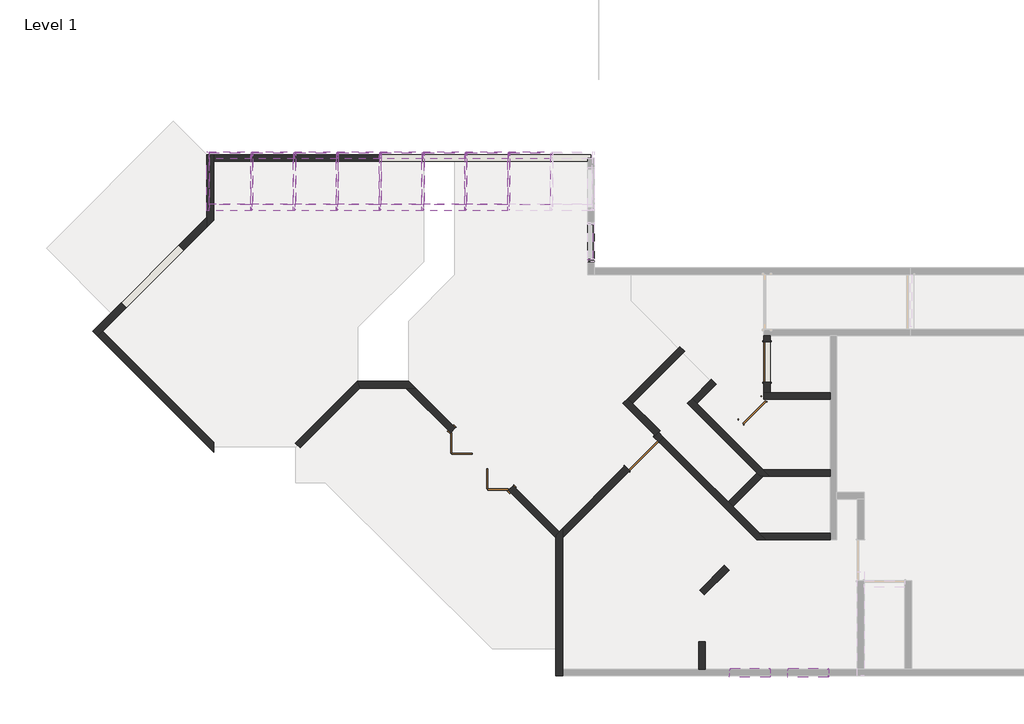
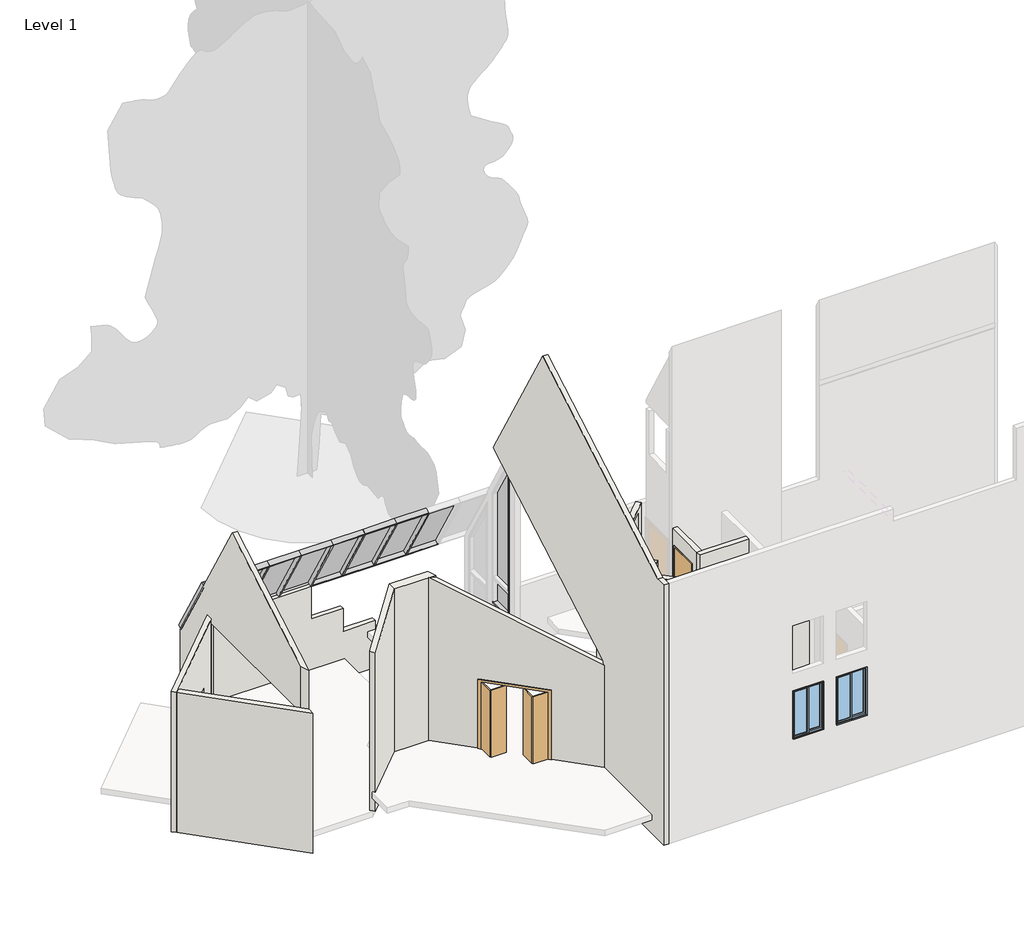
# One storey, part 1 of 2: 26 members, 21 walls, 10 plates, 4 doors, 2 windows.
"""IFC4 building model written with IfcOpenShell, lengths in millimetres."""

from ifc_helpers import new_model, si_unit, frame, origin, place, context, project, spatial, polyline, outline, extrude, faceted_brep, transform, mapped, element, save
from components import m_single_flush_02f8d604, m_single_flush_70x210_7b3a3d44, bifold4_bifold4_2c2d13ea, rectangular_mullion_50_x_150mm_22f0c19d, rectangular_mullion_50_x_150mm_a34e4002, rectangular_mullion_50_x_150mm_0c4aa80c, rectangular_mullion_50_x_150mm_10672d7d, rectangular_mullion_50_x_150mm_12b7c3d9, rectangular_mullion_50_x_150mm_0d3281e4, rectangular_mullion_50_x_150mm_592ffe93, system_panel_glazed_efa95759, system_panel_glazed_20f2d705, system_panel_glazed_4936f0a6, system_panel_glazed_10866b62, m_sliding_with_trim_90x150_4a0fd2b2

model = new_model("IFC4")

# Units and contexts
model_context = context("Model", 3, world=origin())
ifc_project = project(units=[si_unit("LENGTHUNIT", "METRE", prefix="MILLI")], contexts=[model_context])

# Site, building, storey
site = spatial("IfcSite", under=ifc_project)
building = spatial("IfcBuilding", under=site)
storey = spatial("IfcBuildingStorey", under=building, Name="Level 1", Elevation=1200.0)

# Doors
placement = place(None, origin())
m_single_flush_shape = m_single_flush_02f8d604(model_context)
element("IfcDoor", 1, ObjectType="M_Single-Flush : 90x210 室內", at=placement, inside=storey, context=model_context, shape_type="MappedRepresentation", body=[
    mapped(m_single_flush_shape, transform((-3916.8085251, 5219.360491, 1200.0), x_axis=(0.7071440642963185, 0.7070694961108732, 0.0), y_axis=(-0.7070694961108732, 0.7071440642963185, 0.0), z_axis=(0.0, 0.0, 1.0))),
])
element("IfcDoor", 2, ObjectType="M_Single-Flush : 90x210 室內", at=placement, inside=storey, context=model_context, shape_type="MappedRepresentation", body=[
    mapped(m_single_flush_shape, transform((-1152.577255, 7248.4147808, 1800.0), x_axis=(-5.272766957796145e-05, -0.9999999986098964, 0.0), y_axis=(0.9999999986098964, -5.272766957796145e-05, 0.0), z_axis=(0.0, 0.0, 1.0))),
])
m_single_flush_70x210_shape = m_single_flush_70x210_7b3a3d44(model_context)
element("IfcDoor", 3, ObjectType="M_Single-Flush : 70x210", at=placement, inside=storey, context=model_context, shape_type="MappedRepresentation", body=[
    mapped(m_single_flush_70x210_shape, transform((-1473.7040795, 6177.3613616, 1800.0), x_axis=(-0.7071440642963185, -0.7070694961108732, 0.0), y_axis=(0.7070694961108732, -0.7071440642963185, 0.0), z_axis=(0.0, 0.0, 1.0))),
])
bifold4_bifold4_shape = bifold4_bifold4_2c2d13ea(model_context)
element("IfcDoor", 4, ObjectType="bifold4 : bifold4", at=placement, inside=storey, context=model_context, shape_type="MappedRepresentation", body=[
    mapped(bifold4_bifold4_shape, transform((-7445.1063591, 5106.2384711, 1200.0), x_axis=(-0.7070694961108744, 0.7071440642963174, 0.0), y_axis=(-0.7071440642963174, -0.7070694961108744, 0.0), z_axis=(0.0, 0.0, 1.0))),
])

# Members
rectangular_mullion_50_x_150mm_shape = rectangular_mullion_50_x_150mm_22f0c19d(model_context)
element("IfcMember", 5, ObjectType="Rectangular Mullion : 50 x 150mm", at=placement, inside=storey, context=model_context, shape_type="MappedRepresentation", body=[
    mapped(rectangular_mullion_50_x_150mm_shape, transform((-6852.3222132, 10648.7153198, 5205.1596988), x_axis=(-2.636390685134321e-05, -0.4999999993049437, 0.866025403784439), y_axis=(-4.56635013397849e-05, -0.866025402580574, -0.4999999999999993), z_axis=(0.9999999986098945, -5.272770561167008e-05, 6.240637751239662e-11))),
])
element("IfcMember", 6, ObjectType="Rectangular Mullion : 50 x 150mm", at=placement, inside=storey, context=model_context, shape_type="MappedRepresentation", body=[
    mapped(rectangular_mullion_50_x_150mm_shape, transform((-7797.3222115, 10648.7651475, 5205.1596987), x_axis=(-2.636390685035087e-05, -0.4999999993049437, 0.866025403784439), y_axis=(-4.56635013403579e-05, -0.866025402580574, -0.4999999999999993), z_axis=(0.9999999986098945, -5.272770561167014e-05, 6.240523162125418e-11))),
])
element("IfcMember", 7, ObjectType="Rectangular Mullion : 50 x 150mm", at=placement, inside=storey, context=model_context, shape_type="MappedRepresentation", body=[
    mapped(rectangular_mullion_50_x_150mm_shape, transform((-8742.3222099, 10648.8149752, 5205.1596986), x_axis=(-2.636390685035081e-05, -0.4999999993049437, 0.866025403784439), y_axis=(-4.566350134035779e-05, -0.866025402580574, -0.4999999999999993), z_axis=(0.9999999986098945, -5.272770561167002e-05, 6.240523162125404e-11))),
])
element("IfcMember", 8, ObjectType="Rectangular Mullion : 50 x 150mm", at=placement, inside=storey, context=model_context, shape_type="MappedRepresentation", body=[
    mapped(rectangular_mullion_50_x_150mm_shape, transform((-9687.3222082, 10648.8648029, 5205.1596986), x_axis=(-2.6363906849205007e-05, -0.4999999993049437, 0.866025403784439), y_axis=(-4.5663501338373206e-05, -0.866025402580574, -0.4999999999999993), z_axis=(0.9999999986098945, -5.272770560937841e-05, 6.240523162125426e-11))),
])
element("IfcMember", 9, ObjectType="Rectangular Mullion : 50 x 150mm", at=placement, inside=storey, context=model_context, shape_type="MappedRepresentation", body=[
    mapped(rectangular_mullion_50_x_150mm_shape, transform((-10632.3222066, 10648.9146306, 5205.1596985), x_axis=(-2.6363906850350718e-05, -0.4999999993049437, 0.866025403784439), y_axis=(-4.5663501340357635e-05, -0.866025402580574, -0.4999999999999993), z_axis=(0.9999999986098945, -5.2727705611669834e-05, 6.240523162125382e-11))),
])
element("IfcMember", 10, ObjectType="Rectangular Mullion : 50 x 150mm", at=placement, inside=storey, context=model_context, shape_type="MappedRepresentation", body=[
    mapped(rectangular_mullion_50_x_150mm_shape, transform((-11577.3222049, 10648.9644582, 5205.1596985), x_axis=(-2.6363906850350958e-05, -0.4999999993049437, 0.866025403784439), y_axis=(-4.566350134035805e-05, -0.866025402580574, -0.4999999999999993), z_axis=(0.9999999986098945, -5.2727705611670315e-05, 6.24052316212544e-11))),
])
element("IfcMember", 11, ObjectType="Rectangular Mullion : 50 x 150mm", at=placement, inside=storey, context=model_context, shape_type="MappedRepresentation", body=[
    mapped(rectangular_mullion_50_x_150mm_shape, transform((-8742.2602549, 11823.8149734, 3170.0), x_axis=(2.6363834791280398e-05, 0.4999999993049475, -0.866025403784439), y_axis=(-4.566350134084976e-05, -0.866025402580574, -0.4999999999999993), z_axis=(-0.9999999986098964, 5.272766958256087e-05, 0.0))),
])
element("IfcMember", 12, ObjectType="Rectangular Mullion : 50 x 150mm", at=placement, inside=storey, context=model_context, shape_type="MappedRepresentation", body=[
    mapped(rectangular_mullion_50_x_150mm_shape, transform((-7797.2602565, 11823.7651458, 3170.0), x_axis=(2.6363834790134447e-05, 0.4999999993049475, -0.866025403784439), y_axis=(-4.566350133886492e-05, -0.866025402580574, -0.4999999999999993), z_axis=(-0.9999999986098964, 5.272766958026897e-05, 0.0))),
])
element("IfcMember", 13, ObjectType="Rectangular Mullion : 50 x 150mm", at=placement, inside=storey, context=model_context, shape_type="MappedRepresentation", body=[
    mapped(rectangular_mullion_50_x_150mm_shape, transform((-6852.2602581, 11823.7153181, 3170.0), x_axis=(2.6363834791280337e-05, 0.4999999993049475, -0.866025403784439), y_axis=(-4.566350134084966e-05, -0.866025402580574, -0.4999999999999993), z_axis=(-0.9999999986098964, 5.272766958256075e-05, 0.0))),
])
element("IfcMember", 14, ObjectType="Rectangular Mullion : 50 x 150mm", at=placement, inside=storey, context=model_context, shape_type="MappedRepresentation", body=[
    mapped(rectangular_mullion_50_x_150mm_shape, transform((-12522.2602483, 11824.014284, 3170.0), x_axis=(2.6363834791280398e-05, 0.4999999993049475, -0.866025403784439), y_axis=(-4.566350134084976e-05, -0.866025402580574, -0.4999999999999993), z_axis=(-0.9999999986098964, 5.272766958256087e-05, 0.0))),
])
element("IfcMember", 15, ObjectType="Rectangular Mullion : 50 x 150mm", at=placement, inside=storey, context=model_context, shape_type="MappedRepresentation", body=[
    mapped(rectangular_mullion_50_x_150mm_shape, transform((-11577.2602499, 11823.9644564, 3170.0), x_axis=(2.6363834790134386e-05, 0.4999999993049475, -0.866025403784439), y_axis=(-4.566350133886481e-05, -0.866025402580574, -0.4999999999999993), z_axis=(-0.9999999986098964, 5.272766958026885e-05, 0.0))),
])
element("IfcMember", 16, ObjectType="Rectangular Mullion : 50 x 150mm", at=placement, inside=storey, context=model_context, shape_type="MappedRepresentation", body=[
    mapped(rectangular_mullion_50_x_150mm_shape, transform((-10632.2602516, 11823.9146287, 3170.0), x_axis=(2.6363834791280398e-05, 0.4999999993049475, -0.866025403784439), y_axis=(-4.566350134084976e-05, -0.866025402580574, -0.4999999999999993), z_axis=(-0.9999999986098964, 5.272766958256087e-05, 0.0))),
])
element("IfcMember", 17, ObjectType="Rectangular Mullion : 50 x 150mm", at=placement, inside=storey, context=model_context, shape_type="MappedRepresentation", body=[
    mapped(rectangular_mullion_50_x_150mm_shape, transform((-9687.2602532, 11823.8648011, 3170.0), x_axis=(2.6363834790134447e-05, 0.4999999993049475, -0.866025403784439), y_axis=(-4.566350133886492e-05, -0.866025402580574, -0.4999999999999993), z_axis=(-0.9999999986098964, 5.272766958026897e-05, 0.0))),
])
rectangular_mullion_50_x_150mm_2_shape = rectangular_mullion_50_x_150mm_a34e4002(model_context)
element("IfcMember", 18, ObjectType="Rectangular Mullion : 50 x 150mm", at=placement, inside=storey, context=model_context, shape_type="MappedRepresentation", body=[
    mapped(rectangular_mullion_50_x_150mm_2_shape, transform((-12522.3222033, 10649.0142859, 5205.1596984), x_axis=(-2.636390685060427e-05, -0.4999999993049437, 0.866025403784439), y_axis=(-4.566350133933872e-05, -0.866025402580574, -0.4999999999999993), z_axis=(0.9999999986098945, -5.2727705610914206e-05, 6.240596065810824e-11))),
])
element("IfcMember", 19, ObjectType="Rectangular Mullion : 50 x 150mm", at=placement, inside=storey, context=model_context, shape_type="MappedRepresentation", body=[
    mapped(rectangular_mullion_50_x_150mm_2_shape, transform((-13462.2602493, 11824.063848, 3170.0), x_axis=(2.6363834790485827e-05, 0.49999999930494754, -0.8660254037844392), y_axis=(-4.566350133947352e-05, -0.866025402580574, -0.4999999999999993), z_axis=(-0.9999999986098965, 5.272766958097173e-05, 0.0))),
])
rectangular_mullion_50_x_150mm_3_shape = rectangular_mullion_50_x_150mm_0c4aa80c(model_context)
element("IfcMember", 20, ObjectType="Rectangular Mullion : 50 x 150mm", at=placement, inside=storey, context=model_context, shape_type="MappedRepresentation", body=[
    mapped(rectangular_mullion_50_x_150mm_3_shape, transform((-6852.320895, 10673.7153198, 5161.8584286), x_axis=(-0.9999999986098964, 5.2727669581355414e-05, 0.0), y_axis=(-4.566350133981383e-05, -0.8660254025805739, -0.49999999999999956), z_axis=(-2.6363834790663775e-05, -0.49999999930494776, 0.8660254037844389))),
])
element("IfcMember", 21, ObjectType="Rectangular Mullion : 50 x 150mm", at=placement, inside=storey, context=model_context, shape_type="MappedRepresentation", body=[
    mapped(rectangular_mullion_50_x_150mm_3_shape, transform((-7797.3208933, 10673.7651475, 5161.8584285), x_axis=(-0.9999999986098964, 5.272766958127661e-05, 0.0), y_axis=(-4.566350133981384e-05, -0.8660254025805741, -0.4999999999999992), z_axis=(-2.6363834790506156e-05, -0.49999999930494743, 0.8660254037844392))),
])
element("IfcMember", 22, ObjectType="Rectangular Mullion : 50 x 150mm", at=placement, inside=storey, context=model_context, shape_type="MappedRepresentation", body=[
    mapped(rectangular_mullion_50_x_150mm_3_shape, transform((-8742.3208917, 10673.8149752, 5161.8584285), x_axis=(-0.9999999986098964, 5.2727669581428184e-05, 0.0), y_axis=(-4.566350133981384e-05, -0.866025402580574, -0.4999999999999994), z_axis=(-2.6363834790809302e-05, -0.49999999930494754, 0.8660254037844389))),
])
element("IfcMember", 23, ObjectType="Rectangular Mullion : 50 x 150mm", at=placement, inside=storey, context=model_context, shape_type="MappedRepresentation", body=[
    mapped(rectangular_mullion_50_x_150mm_3_shape, transform((-9687.32089, 10673.8648028, 5161.8584284), x_axis=(-0.9999999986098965, 5.272766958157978e-05, 0.0), y_axis=(-4.5663501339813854e-05, -0.8660254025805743, -0.49999999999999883), z_axis=(-2.6363834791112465e-05, -0.4999999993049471, 0.8660254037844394))),
])
element("IfcMember", 24, ObjectType="Rectangular Mullion : 50 x 150mm", at=placement, inside=storey, context=model_context, shape_type="MappedRepresentation", body=[
    mapped(rectangular_mullion_50_x_150mm_3_shape, transform((-10632.3208884, 10673.9146305, 5161.8584283), x_axis=(-0.9999999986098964, 5.272766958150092e-05, 0.0), y_axis=(-4.566350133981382e-05, -0.8660254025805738, -0.4999999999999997), z_axis=(-2.6363834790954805e-05, -0.49999999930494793, 0.8660254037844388))),
])
element("IfcMember", 25, ObjectType="Rectangular Mullion : 50 x 150mm", at=placement, inside=storey, context=model_context, shape_type="MappedRepresentation", body=[
    mapped(rectangular_mullion_50_x_150mm_3_shape, transform((-11577.3208868, 10673.9644582, 5161.8584283), x_axis=(-0.9999999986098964, 5.272766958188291e-05, 0.0), y_axis=(-4.566350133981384e-05, -0.8660254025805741, -0.4999999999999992), z_axis=(-2.636383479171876e-05, -0.4999999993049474, 0.866025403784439))),
])
element("IfcMember", 26, ObjectType="Rectangular Mullion : 50 x 150mm", at=placement, inside=storey, context=model_context, shape_type="MappedRepresentation", body=[
    mapped(rectangular_mullion_50_x_150mm_3_shape, transform((-12522.3208851, 10674.0142859, 5161.8584282), x_axis=(-0.9999999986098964, 5.272766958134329e-05, 0.0), y_axis=(-4.566350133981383e-05, -0.866025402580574, -0.49999999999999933), z_axis=(-2.6363834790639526e-05, -0.49999999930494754, 0.866025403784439))),
])
rectangular_mullion_50_x_150mm_4_shape = rectangular_mullion_50_x_150mm_10672d7d(model_context)
element("IfcMember", 27, ObjectType="Rectangular Mullion : 50 x 150mm", at=placement, inside=storey, context=model_context, shape_type="MappedRepresentation", body=[
    mapped(rectangular_mullion_50_x_150mm_4_shape, transform((-13512.3222042, 10649.0664863, 5205.1596983), x_axis=(-0.9999999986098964, 5.272766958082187e-05, 0.0), y_axis=(-4.5663501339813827e-05, -0.8660254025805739, -0.4999999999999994), z_axis=(-2.636383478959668e-05, -0.4999999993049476, 0.8660254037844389))),
])
rectangular_mullion_50_x_150mm_5_shape = rectangular_mullion_50_x_150mm_12b7c3d9(model_context)
element("IfcMember", 28, ObjectType="Rectangular Mullion : 50 x 150mm", at=placement, inside=storey, context=model_context, shape_type="MappedRepresentation", body=[
    mapped(rectangular_mullion_50_x_150mm_5_shape, transform((-5037.3846077, 9465.3384866, 6864.6558932), x_axis=(0.0, -1.0, 0.0), y_axis=(1.0, 0.0, 0.0), z_axis=(0.0, 0.0, 1.0))),
])
rectangular_mullion_50_x_150mm_6_shape = rectangular_mullion_50_x_150mm_0d3281e4(model_context)
element("IfcMember", 29, ObjectType="Rectangular Mullion : 50 x 150mm", at=placement, inside=storey, context=model_context, shape_type="MappedRepresentation", body=[
    mapped(rectangular_mullion_50_x_150mm_6_shape, transform((-5037.3846077, 9465.3384866, 2700.0), x_axis=(0.0, -1.0, 0.0), y_axis=(1.0, 0.0, 0.0), z_axis=(0.0, 0.0, 1.0))),
])
rectangular_mullion_50_x_150mm_7_shape = rectangular_mullion_50_x_150mm_592ffe93(model_context)
element("IfcMember", 30, ObjectType="Rectangular Mullion : 50 x 150mm", at=placement, inside=storey, context=model_context, shape_type="MappedRepresentation", body=[
    mapped(rectangular_mullion_50_x_150mm_7_shape, transform((-5037.3846077, 9465.3384866, 1900.0), x_axis=(0.0, 0.0, -1.0), y_axis=(1.0, 0.0, 0.0), z_axis=(0.0, -1.0, 0.0))),
])

# Plates
system_panel_glazed_shape = system_panel_glazed_efa95759(model_context)
element("IfcPlate", 31, ObjectType="System Panel : Glazed", at=placement, inside=storey, context=model_context, shape_type="MappedRepresentation", body=[
    mapped(system_panel_glazed_shape, transform((-6379.7615772, 11798.6904043, 3213.3012702), x_axis=(-0.9999999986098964, 5.2727669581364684e-05, 0.0), y_axis=(-4.566350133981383e-05, -0.866025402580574, -0.4999999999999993), z_axis=(-2.6363834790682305e-05, -0.4999999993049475, 0.866025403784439))),
])
element("IfcPlate", 32, ObjectType="System Panel : Glazed", at=placement, inside=storey, context=model_context, shape_type="MappedRepresentation", body=[
    mapped(system_panel_glazed_shape, transform((-7324.7615755, 11798.740232, 3213.3012702), x_axis=(-0.9999999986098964, 5.2727669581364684e-05, 0.0), y_axis=(-4.566350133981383e-05, -0.866025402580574, -0.4999999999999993), z_axis=(-2.6363834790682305e-05, -0.4999999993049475, 0.866025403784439))),
])
element("IfcPlate", 33, ObjectType="System Panel : Glazed", at=placement, inside=storey, context=model_context, shape_type="MappedRepresentation", body=[
    mapped(system_panel_glazed_shape, transform((-8269.7615739, 11798.7900596, 3213.3012702), x_axis=(-0.9999999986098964, 5.2727669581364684e-05, 0.0), y_axis=(-4.566350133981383e-05, -0.866025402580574, -0.4999999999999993), z_axis=(-2.6363834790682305e-05, -0.4999999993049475, 0.866025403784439))),
])
element("IfcPlate", 34, ObjectType="System Panel : Glazed", at=placement, inside=storey, context=model_context, shape_type="MappedRepresentation", body=[
    mapped(system_panel_glazed_shape, transform((-9214.7615722, 11798.8398873, 3213.3012702), x_axis=(-0.9999999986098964, 5.2727669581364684e-05, 0.0), y_axis=(-4.566350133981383e-05, -0.866025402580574, -0.4999999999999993), z_axis=(-2.6363834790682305e-05, -0.4999999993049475, 0.866025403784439))),
])
element("IfcPlate", 35, ObjectType="System Panel : Glazed", at=placement, inside=storey, context=model_context, shape_type="MappedRepresentation", body=[
    mapped(system_panel_glazed_shape, transform((-10159.7615706, 11798.8897149, 3213.3012702), x_axis=(-0.9999999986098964, 5.2727669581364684e-05, 0.0), y_axis=(-4.566350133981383e-05, -0.866025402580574, -0.4999999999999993), z_axis=(-2.6363834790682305e-05, -0.4999999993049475, 0.866025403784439))),
])
element("IfcPlate", 36, ObjectType="System Panel : Glazed", at=placement, inside=storey, context=model_context, shape_type="MappedRepresentation", body=[
    mapped(system_panel_glazed_shape, transform((-11104.7615689, 11798.9395426, 3213.3012702), x_axis=(-0.9999999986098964, 5.2727669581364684e-05, 0.0), y_axis=(-4.566350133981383e-05, -0.866025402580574, -0.4999999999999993), z_axis=(-2.6363834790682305e-05, -0.4999999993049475, 0.866025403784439))),
])
element("IfcPlate", 37, ObjectType="System Panel : Glazed", at=placement, inside=storey, context=model_context, shape_type="MappedRepresentation", body=[
    mapped(system_panel_glazed_shape, transform((-12049.7615673, 11798.9893702, 3213.3012702), x_axis=(-0.9999999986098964, 5.2727669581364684e-05, 0.0), y_axis=(-4.566350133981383e-05, -0.866025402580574, -0.4999999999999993), z_axis=(-2.6363834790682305e-05, -0.4999999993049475, 0.866025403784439))),
])
system_panel_glazed_2_shape = system_panel_glazed_20f2d705(model_context)
element("IfcPlate", 38, ObjectType="System Panel : Glazed", at=placement, inside=storey, context=model_context, shape_type="MappedRepresentation", body=[
    mapped(system_panel_glazed_2_shape, transform((-13004.761567, 11799.0397251, 3213.3012702), x_axis=(-0.9999999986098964, 5.2727669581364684e-05, 0.0), y_axis=(-4.566350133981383e-05, -0.866025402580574, -0.4999999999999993), z_axis=(-2.6363834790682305e-05, -0.4999999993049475, 0.866025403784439))),
])
system_panel_glazed_3_shape = system_panel_glazed_4936f0a6(model_context)
element("IfcPlate", 39, ObjectType="System Panel : Glazed", at=placement, inside=storey, context=model_context, shape_type="MappedRepresentation", body=[
    mapped(system_panel_glazed_3_shape, transform((-5037.3846077, 9900.35657, 1950.0), x_axis=(0.0, 1.0, 0.0), y_axis=(-1.0, 0.0, 0.0), z_axis=(0.0, 0.0, 1.0))),
])
system_panel_glazed_4_shape = system_panel_glazed_10866b62(model_context)
element("IfcPlate", 40, ObjectType="System Panel : Glazed", at=placement, inside=storey, context=model_context, shape_type="MappedRepresentation", body=[
    mapped(system_panel_glazed_4_shape, transform((-5037.3846077, 9900.35657, 2745.0), x_axis=(0.0, 1.0, 0.0), y_axis=(-1.0, 0.0, 0.0), z_axis=(0.0, 0.0, 1.0))),
])

# Walls
element("IfcWall", 41, ObjectType="15cm室內", at=placement, inside=storey, context=model_context, shape_type="Brep", body=[
    faceted_brep([(-3545.5634839, 5484.5059594, 3300.0), (-3545.5634839, 5484.5059594, 1200.0), (-3439.4918743, 5590.5663838, 1200.0), (-3439.4918743, 5590.5663838, 4400.0), (-3439.4918743, 5590.5663838, 7330.0), (-3545.5634839, 5484.5059594, 7330.0), (-5662.7061288, 3367.5865668, 7330.0), (-5662.7061288, 3367.5865668, 1200.0), (-4181.9931418, 4848.1434129, 1200.0), (-4181.9931418, 4848.1434129, 3300.0), (-3642.6598041, 5387.419878, 5814.1569786), (-4333.4963737, 4696.656157, 5814.1569786), (-4333.4963737, 4696.656157, 7177.9842073), (-3642.6598041, 5387.419878, 7177.9842073), (-3545.5522987, 5696.6379934, 1200.0), (-3619.8024255, 5622.3956964, 1200.0), (-3651.6239084, 5590.577569, 1200.0), (-3651.6239084, 5590.577569, 3300.0), (-4288.0535662, 4954.2150225, 3300.0), (-4288.0535662, 4954.2150225, 1200.0), (-5662.6949436, 3579.7186008, 1200.0), (-5662.6949436, 3579.7186008, 4594.0278055), (-5662.6949436, 3579.7186008, 7330.0), (-3545.5522987, 5696.6379934, 7330.0), (-3748.7202285, 5493.4914876, 5814.1569786), (-3748.7202285, 5493.4914876, 7177.9842073), (-4439.5567981, 4802.7277666, 7177.9842073), (-4439.5567981, 4802.7277666, 5814.1569786)], [[[0, 1, 2, 3, 4, 5, 6, 7, 8, 9], [10, 11, 12, 13]], [[14, 15, 16, 17, 18, 19, 20, 21, 22, 23], [24, 25, 26, 27]], [[2, 1, 16, 15, 14]], [[8, 7, 20, 19]], [[11, 10, 24, 27]], [[12, 11, 27, 26]], [[13, 12, 26, 25]], [[10, 13, 25, 24]], [[2, 14, 23, 4, 3]], [[6, 22, 21, 20, 7]], [[6, 5, 4, 23, 22]], [[17, 16, 1, 0]], [[18, 17, 0, 9]], [[19, 18, 9, 8]]]),
])
element("IfcWall", 42, ObjectType="15cm室內", at=placement, inside=storey, context=model_context, shape_type="Brep", body=[
    faceted_brep([(237.4629114, 6573.3414862, 1200.0), (-1077.6128463, 6573.4108271, 1200.0), (-1227.6128461, 6573.4187363, 1200.0), (-1227.6128461, 6573.4187363, 4400.0), (-1077.6128463, 6573.4108271, 4400.0), (237.4629114, 6573.3414862, 4400.0), (237.4550023, 6423.3414864, 1200.0), (237.4550023, 6423.3414864, 4400.0), (-1121.5547382, 6423.4131439, 4400.0), (-1227.6207552, 6423.4187365, 4400.0), (-1227.6207552, 6423.4187365, 1200.0), (-1121.5547382, 6423.4131439, 1200.0), (-1227.6151626, 6529.4847535, 1200.0), (-1227.6151626, 6529.4847535, 4400.0)], [[[0, 1, 2, 3, 4, 5]], [[6, 7, 8, 9, 10, 11]], [[2, 1, 0, 6, 11, 10, 12]], [[5, 4, 3, 13, 9, 8, 7]], [[3, 2, 12, 10, 9, 13]], [[0, 5, 7, 6]]]),
])
element("IfcWall", 43, ObjectType="15cm室內", at=placement, inside=storey, context=model_context, shape_type="SweptSolid", body=[
    extrude(outline(polyline([(-1237.5744226, 4873.4192592), (237.3732744, 4873.3414886), (237.3653652, 4723.3414888), (-1087.5823319, 4723.4113502), (-1237.5744226, 4873.4192592)])), frame((0.0, 0.0, 1200.0), z_axis=(0.0, 0.0, 1.0), x_axis=(1.0, 0.0, 0.0)), (0.0, 0.0, 1.0), 3200.0),
])
element("IfcWall", 44, ObjectType="15cm室內", at=placement, inside=storey, context=model_context, shape_type="Brep", body=[
    faceted_brep([(-1172.580391, 3323.41583, 1200.0), (-1322.5724817, 3473.423739, 1200.0), (-1905.0796447, 4055.9923338, 1200.0), (-2011.1400692, 4162.0639434, 1200.0), (-3439.4918743, 5590.5663838, 1200.0), (-3439.4918743, 5590.5663838, 4400.0), (-2011.1400692, 4162.0639434, 4400.0), (-1905.0796447, 4055.9923338, 4400.0), (-1322.5724817, 3473.423739, 4400.0), (-1172.580391, 3323.41583, 4400.0), (-1384.7124251, 3323.4270152, 1200.0), (-1384.7124251, 3323.4270152, 4400.0), (-3545.5634839, 5484.5059594, 4400.0), (-3545.5634839, 5484.5059594, 3300.0), (-3545.5634839, 5484.5059594, 1200.0)], [[[0, 1, 2, 3, 4, 5, 6, 7, 8, 9]], [[10, 11, 12, 13, 14]], [[4, 3, 2, 1, 0, 10, 14]], [[9, 8, 7, 6, 5, 12, 11]], [[0, 9, 11, 10]], [[4, 14, 13, 12, 5]]]),
])
element("IfcWall", 45, ObjectType="15cm室內", at=placement, inside=storey, context=model_context, shape_type="Brep", body=[
    faceted_brep([(-1087.5823319, 4723.4113502, 1200.0), (-1237.5744226, 4873.4192592, 1200.0), (-1954.5676359, 5590.4880872, 1200.0), (-2060.6280603, 5696.5596969, 1200.0), (-2696.9906068, 6332.9893547, 1200.0), (-2803.0510312, 6439.0609644, 1200.0), (-2803.0510312, 6439.0609644, 4400.0), (-2696.9906068, 6332.9893547, 4400.0), (-2060.6280603, 5696.5596969, 4400.0), (-1954.5676359, 5590.4880872, 4400.0), (-1237.5744226, 4873.4192592, 4400.0), (-1087.5823319, 4723.4113502, 4400.0), (-1299.714366, 4723.4225354, 1200.0), (-1299.714366, 4723.4225354, 4400.0), (-1374.7104113, 4798.4264899, 4400.0), (-2909.1226408, 6333.0005399, 4400.0), (-2909.1226408, 6333.0005399, 1200.0), (-1374.7104113, 4798.4264899, 1200.0), (-1237.5823317, 4723.4192594, 1200.0), (-1237.5823317, 4723.4192594, 4400.0)], [[[0, 1, 2, 3, 4, 5, 6, 7, 8, 9, 10, 11]], [[12, 13, 14, 15, 16, 17]], [[5, 4, 3, 2, 1, 0, 18, 12, 17, 16]], [[11, 10, 9, 8, 7, 6, 15, 14, 13, 19]], [[6, 5, 16, 15]], [[0, 11, 19, 13, 12, 18]]]),
])
element("IfcWall", 46, ObjectType="15cm室內", at=placement, inside=storey, context=model_context, shape_type="Brep", body=[
    faceted_brep([(-1077.6128463, 6573.4108271, 1200.0), (-1077.5469453, 7823.2480246, 1200.0), (-1077.5469453, 7823.2480246, 4400.0), (-1077.6128463, 6573.4108271, 4400.0), (-1077.5535276, 7698.4108256, 1800.0), (-1077.6009825, 6798.4108268, 1800.0), (-1077.6009825, 6798.4108268, 3900.0), (-1077.5535276, 7698.4108256, 3900.0), (-1227.6128461, 6573.4187363, 1200.0), (-1227.6128461, 6573.4187363, 4400.0), (-1227.5469455, 7823.2480246, 4400.0), (-1227.5469455, 7823.2480246, 1200.0), (-1227.5535274, 7698.4187347, 1800.0), (-1227.5535274, 7698.4187347, 3900.0), (-1227.6009823, 6798.418736, 3900.0), (-1227.6009823, 6798.418736, 1800.0)], [[[0, 1, 2, 3], [4, 5, 6, 7]], [[8, 9, 10, 11], [12, 13, 14, 15]], [[1, 0, 8, 11]], [[3, 2, 10, 9]], [[0, 3, 9, 8]], [[2, 1, 11, 10]], [[5, 4, 12, 15]], [[6, 5, 15, 14]], [[7, 6, 14, 13]], [[4, 7, 13, 12]]]),
])
element("IfcWall", 47, ObjectType="15cm室內", at=placement, inside=storey, context=model_context, shape_type="SweptSolid", body=[
    extrude(outline(polyline([(-1322.5724817, 3473.423739), (237.2994556, 3473.3414905), (237.2915465, 3323.3414908), (-1172.580391, 3323.41583), (-1322.5724817, 3473.423739)])), frame((0.0, 0.0, 1200.0), z_axis=(0.0, 0.0, 1.0), x_axis=(1.0, 0.0, 0.0)), (0.0, 0.0, 1.0), 3200.0),
])
element("IfcWall", 48, ObjectType="15cm室內", at=placement, inside=storey, context=model_context, shape_type="SweptSolid", body=[
    extrude(outline(polyline([(-2272.7041682, 6757.2310524), (-2696.9906068, 6332.9893547), (-2803.0510312, 6439.0609644), (-2378.7645926, 6863.302662), (-2272.7041682, 6757.2310524)])), frame((0.0, 0.0, 1200.0), z_axis=(0.0, 0.0, 1.0), x_axis=(1.0, 0.0, 0.0)), (0.0, 0.0, 1.0), 3200.0),
])
element("IfcWall", 49, ObjectType="15cm室內", at=placement, inside=storey, context=model_context, shape_type="SweptSolid", body=[
    extrude(outline(polyline([(-2512.827087, 1073.486495), (-2512.8587236, 473.4864958), (-2662.8587233, 473.494405), (-2662.8270867, 1073.4944041), (-2512.827087, 1073.486495)])), frame((0.0, 0.0, 1200.0), z_axis=(0.0, 0.0, 1.0), x_axis=(1.0, 0.0, 0.0)), (0.0, 0.0, 1.0), 3200.0),
])
element("IfcWall", 50, ObjectType="15cm室內", at=placement, inside=storey, context=model_context, shape_type="SweptSolid", body=[
    extrude(outline(polyline([(-2640.7997764, 2217.4642095), (-2096.1381283, 2762.0684232), (-1990.0777039, 2655.9968136), (-2534.739352, 2111.3925999), (-2640.7997764, 2217.4642095)])), frame((0.0, 0.0, 1200.0), z_axis=(0.0, 0.0, 1.0), x_axis=(1.0, 0.0, 0.0)), (0.0, 0.0, 1.0), 3200.0),
])
element("IfcWall", 51, ObjectType="15cm室內", at=placement, inside=storey, context=model_context, shape_type="SweptSolid", body=[
    extrude(outline(polyline([(-2011.1400692, 4162.0639434), (-1374.7104113, 4798.4264899), (-1299.714366, 4723.4225354), (-1237.5823317, 4723.4192594), (-1905.0796447, 4055.9923338), (-2011.1400692, 4162.0639434)])), frame((0.0, 0.0, 1200.0), z_axis=(0.0, 0.0, 1.0), x_axis=(1.0, 0.0, 0.0)), (0.0, 0.0, 1.0), 3200.0),
])
element("IfcWall", 52, ObjectType="15cm室內", at=placement, inside=storey, context=model_context, shape_type="SweptSolid", body=[
    extrude(outline(polyline([(0.0, 0.0), (0.0, -1384.0), (-770.0, -2000.0), (-1625.0, -2000.0), (-1625.0, 0.0), (0.0, 0.0)])), frame((-2969.1661305, 7482.0522269, 1200.0), z_axis=(-0.7070694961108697, 0.7071440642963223, 0.0), x_axis=(0.7071440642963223, 0.7070694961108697, 0.0)), (0.0, 0.0, 1.0), 150.0),
])
element("IfcWall", 53, ObjectType="15cm室內", at=placement, inside=storey, context=model_context, shape_type="Brep", body=[
    faceted_brep([(-4330.407269, 6333.075481, 1200.0), (-3619.8024255, 5622.3956964, 1200.0), (-3619.8024255, 5622.3956964, 3200.0), (-4330.407269, 6333.075481, 3200.0), (-4224.3356594, 6439.1359054, 1200.0), (-4224.3356594, 6439.1359054, 3200.0), (-4118.275235, 6333.0642957, 3200.0), (-3513.7308158, 5728.4561208, 3200.0), (-3513.7308158, 5728.4561208, 1200.0), (-4118.275235, 6333.0642957, 1200.0), (-3545.5522987, 5696.6379934, 1200.0)], [[[0, 1, 2, 3]], [[4, 5, 6, 7, 8, 9]], [[1, 0, 4, 9, 8, 10]], [[3, 2, 7, 6, 5]], [[0, 3, 5, 4]], [[2, 1, 10, 8, 7]]]),
])
element("IfcWall", 54, ObjectType="15cm", at=placement, inside=storey, context=model_context, shape_type="Brep", body=[
    faceted_brep([(-13512.2602492, 11824.0664844, 600.0), (-13512.3445209, 10225.8215181, 600.0), (-13512.3445209, 10225.8215181, 4250.0), (-13512.5872023, 5623.2782607, 4250.0), (-13512.5872023, 5623.2782607, 5702.0852362), (-13512.4011999, 9150.8834714, 7738.749057), (-13512.2602492, 11824.0664844, 3108.660254), (-13362.2602494, 11824.0585752, 600.0), (-13362.2602494, 11824.0585752, 3108.660254), (-13362.4012001, 9150.8755622, 7738.749057), (-13362.5951117, 5473.2703518, 5615.4826958), (-13362.5951117, 5473.2703518, 4400.0), (-13362.5951117, 5473.2703518, 4250.0), (-13362.336612, 10375.8136088, 4250.0), (-13362.336612, 10375.8136088, 600.0)], [[[0, 1, 2, 3, 4, 5, 6]], [[7, 8, 9, 10, 11, 12, 13, 14]], [[1, 0, 7, 14]], [[3, 2, 13, 12]], [[5, 4, 10, 9]], [[6, 5, 9, 8]], [[2, 1, 14, 13]], [[0, 6, 8, 7]], [[4, 3, 12, 11, 10]]]),
])
element("IfcWall", 55, ObjectType="15cm", at=placement, inside=storey, context=model_context, shape_type="Brep", body=[
    faceted_brep([(-5662.8666283, 323.6525882, 600.0), (-5662.8587192, 473.652588, 600.0), (-5662.6949436, 3579.7186008, 600.0), (-5662.6949436, 3579.7186008, 1200.0), (-5662.6949436, 3579.7186008, 4594.0278055), (-5662.4450754, 8318.5614432, 7330.0), (-5662.6949436, 3579.7186008, 7330.0), (-5662.7061288, 3367.5865668, 7330.0), (-5662.8600374, 448.652588, 7330.0), (-5662.8600374, 448.652588, 7500.0), (-5662.4295498, 8613.0100801, 7500.0), (-5662.4048717, 9081.0400466, 7770.2172275), (-5662.5392562, 6532.3867022, 12184.614317), (-5662.85081, 623.6525878, 8773.2050808), (-5662.8587192, 473.652588, 8773.2050808), (-5662.8666283, 323.6525882, 8773.2050808), (-5812.8666281, 323.6604973, 600.0), (-5812.8666281, 323.6604973, 8773.2050808), (-5812.8508098, 623.6604969, 8773.2050808), (-5812.539256, 6532.3946113, 12184.614317), (-5812.4048715, 9081.0479557, 7770.2172275), (-5812.7028525, 3429.7265102, 4507.4252651), (-5812.7028525, 3429.7265102, 4417.5181885), (-5812.7028525, 3429.7265102, 1200.0), (-5812.7028525, 3429.7265102, 600.0), (-5687.4295498, 8613.0113983, 7500.0), (-5687.4450754, 8318.5627614, 7330.0), (-5687.8600373, 448.6539062, 7330.0), (-5687.8600373, 448.6539062, 7500.0)], [[[0, 1, 2, 3, 4, 5, 6, 7, 8, 9, 10, 11, 12, 13, 14, 15]], [[16, 17, 18, 19, 20, 21, 22, 23, 24]], [[2, 1, 0, 16, 24]], [[21, 20, 11, 10, 25, 26, 5, 4]], [[12, 11, 20, 19]], [[13, 12, 19, 18]], [[15, 14, 13, 18, 17]], [[0, 15, 17, 16]], [[4, 3, 2, 24, 23, 22, 21]], [[26, 27, 8, 7, 6, 5]], [[9, 28, 25, 10]], [[27, 28, 9, 8]], [[28, 27, 26, 25]]]),
])
element("IfcWall", 56, ObjectType="15cm", at=placement, inside=storey, context=model_context, shape_type="Brep", body=[
    faceted_brep([(-8028.4331008, 5795.6983412, 3300.0), (-8028.4331008, 5795.6983412, 1200.0), (-8906.4657859, 6673.8236244, 1200.0), (-8906.4657859, 6673.8236244, 6247.1030765), (-5737.698898, 3504.7225555, 4417.5181885), (-5737.698898, 3504.7225555, 1200.0), (-6755.7080078, 4522.8390255, 1200.0), (-6755.7080078, 4522.8390255, 3300.0), (-9118.59782, 6673.8348097, 1200.0), (-8134.5047105, 5689.6379168, 1200.0), (-8134.5047105, 5689.6379168, 3300.0), (-6861.7796175, 4416.778601, 3300.0), (-6861.7796175, 4416.778601, 1200.0), (-5812.7061286, 3367.5944759, 1200.0), (-5812.7061286, 3367.5944759, 4399.5822151), (-9118.59782, 6673.8348097, 6308.3403201), (-5812.7028525, 3429.7265102, 1200.0), (-5812.7028525, 3429.7265102, 4417.5181885)], [[[0, 1, 2, 3, 4, 5, 6, 7]], [[8, 9, 10, 11, 12, 13, 14, 15]], [[2, 1, 9, 8]], [[6, 5, 16, 13, 12]], [[4, 3, 15, 14, 17]], [[3, 2, 8, 15]], [[5, 4, 17, 16]], [[17, 14, 13, 16]], [[10, 9, 1, 0]], [[11, 10, 0, 7]], [[12, 11, 7, 6]]]),
])
element("IfcWall", 57, ObjectType="15cm", at=placement, inside=storey, context=model_context, shape_type="Brep", body=[
    faceted_brep([(-10196.7645024, 6823.8916591, 600.0), (-11562.3063742, 5458.4937834, 600.0), (-11562.3063742, 5458.4937834, 5606.5447299), (-10196.7645024, 6823.8916591, 6394.8991302), (-10134.6403773, 6673.8883832, 600.0), (-10134.6403773, 6673.8883832, 6308.2965898), (-11456.2459498, 5352.4221737, 5545.3074863), (-11456.2459498, 5352.4221737, 600.0)], [[[0, 1, 2, 3]], [[4, 5, 6, 7]], [[1, 0, 4, 7]], [[2, 1, 7, 6]], [[0, 3, 5, 4]], [[3, 2, 6, 5]]]),
])
element("IfcWall", 58, ObjectType="15cm", at=placement, inside=storey, context=model_context, shape_type="Brep", body=[
    faceted_brep([(-13362.5951117, 5473.2703518, 0.0), (-15813.7374903, 7924.6712301, 0.0), (-15813.7374903, 7924.6712301, 4400.0), (-13362.5951117, 5473.2703518, 4400.0), (-13362.5951117, 5473.2703518, 4250.0), (-13362.6062969, 5261.1383177, 0.0), (-13362.6062969, 5261.1383177, 4400.0), (-15919.8091, 7818.6108057, 4400.0), (-15919.8091, 7818.6108057, 0.0)], [[[0, 1, 2, 3, 4]], [[5, 6, 7, 8]], [[1, 0, 5, 8]], [[3, 2, 7, 6]], [[0, 4, 3, 6, 5]], [[2, 1, 8, 7]]]),
])
element("IfcWall", 59, ObjectType="15cm", at=placement, inside=storey, context=model_context, shape_type="Brep", body=[
    faceted_brep([(-13512.3333357, 10437.9535522, 0.0), (-16025.8695244, 7924.6824153, 0.0), (-16025.8695244, 7924.6824153, 4400.0), (-13512.3333357, 10437.9535522, 4400.0), (-14127.1877118, 9823.1640124, 600.0), (-14127.1877118, 9823.1640124, 2700.0), (-15400.0470275, 8550.4389194, 2700.0), (-15400.0470275, 8550.4389194, 600.0), (-13512.3445209, 10225.8215181, 0.0), (-13512.3445209, 10225.8215181, 600.0), (-13512.3445209, 10225.8215181, 4250.0), (-13512.3445209, 10225.8215181, 4400.0), (-15813.7374903, 7924.6712301, 4400.0), (-15919.8091, 7818.6108057, 4400.0), (-15919.8091, 7818.6108057, 0.0), (-15813.7374903, 7924.6712301, 0.0), (-14021.1272874, 9717.0924027, 600.0), (-15293.9866031, 8444.3673097, 600.0), (-15293.9866031, 8444.3673097, 2700.0), (-14021.1272874, 9717.0924027, 2700.0)], [[[0, 1, 2, 3], [4, 5, 6, 7]], [[8, 9, 10, 11, 12, 13, 14, 15], [16, 17, 18, 19]], [[1, 0, 8, 15, 14]], [[3, 2, 13, 12, 11]], [[2, 1, 14, 13]], [[0, 3, 11, 10, 9, 8]], [[5, 4, 16, 19]], [[6, 5, 19, 18]], [[7, 6, 18, 17]], [[4, 7, 17, 16]]]),
])
element("IfcWall", 60, ObjectType="15cm", at=placement, inside=storey, context=model_context, shape_type="Brep", body=[
    faceted_brep([(-5037.260261, 11823.6196174, 0.0), (-13362.2602494, 11824.0585752, 0.0), (-13362.2602494, 11824.0585752, 600.0), (-13362.2602494, 11824.0585752, 3108.660254), (-13362.2602494, 11824.0585752, 3206.25), (-9709.1383651, 11823.8659546, 3206.25), (-9709.1383651, 11823.8659546, 2180.0), (-8762.4711397, 11823.8160391, 2180.0), (-8762.4711397, 11823.8160391, 1470.0), (-7817.4711439, 11823.7662114, 1470.0), (-7817.4711439, 11823.7662114, 1200.0), (-5037.260261, 11823.6196174, 1200.0), (-5037.2681701, 11673.6196176, 0.0), (-5037.2681701, 11673.6196176, 1200.0), (-7817.4790531, 11673.7662116, 1200.0), (-7817.4790531, 11673.7662116, 1470.0), (-8762.4790488, 11673.8160393, 1470.0), (-8762.4790488, 11673.8160393, 2180.0), (-9709.1462742, 11673.8659548, 2180.0), (-9709.1462742, 11673.8659548, 3206.25), (-13362.2681586, 11674.0585755, 3206.25), (-13362.2681586, 11674.0585755, 0.0)], [[[0, 1, 2, 3, 4, 5, 6, 7, 8, 9, 10, 11]], [[12, 13, 14, 15, 16, 17, 18, 19, 20, 21]], [[1, 0, 12, 21]], [[5, 4, 20, 19]], [[6, 5, 19, 18]], [[7, 6, 18, 17]], [[8, 7, 17, 16]], [[9, 8, 16, 15]], [[10, 9, 15, 14]], [[11, 10, 14, 13]], [[0, 11, 13, 12]], [[4, 3, 2, 1, 21, 20]]]),
])
element("IfcWall", 61, ObjectType="15cm", at=placement, inside=storey, context=model_context, shape_type="Brep", body=[
    faceted_brep([(-9056.4578766, 6823.8315334, 600.0), (-10196.7645024, 6823.8916591, 600.0), (-10196.7645024, 6823.8916591, 6394.8991302), (-9056.4578766, 6823.8315334, 6394.8991302), (-8906.4657859, 6673.8236244, 600.0), (-8906.4657859, 6673.8236244, 1200.0), (-8906.4657859, 6673.8236244, 6247.1030765), (-8906.4657859, 6673.8236244, 6308.2965898), (-10134.6403773, 6673.8883832, 6308.2965898), (-10134.6403773, 6673.8883832, 600.0)], [[[0, 1, 2, 3]], [[4, 5, 6, 7, 8, 9]], [[1, 0, 4, 9]], [[0, 3, 7, 6, 5, 4]], [[2, 1, 9, 8]], [[3, 2, 8, 7]]]),
])

# Windows
m_sliding_with_trim_90x150_shape = m_sliding_with_trim_90x150_4a0fd2b2(model_context)
element("IfcWindow", 62, ObjectType="M_Sliding with Trim : 90x150", at=placement, inside=storey, context=model_context, shape_type="MappedRepresentation", body=[
    mapped(m_sliding_with_trim_90x150_shape, transform((-1530.3626795, 398.434691, 1685.0), x_axis=(-0.9999999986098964, 5.2727669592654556e-05, 0.0), y_axis=(-5.2727669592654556e-05, -0.9999999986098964, 0.0), z_axis=(0.0, 0.0, 1.0))),
])
element("IfcWindow", 63, ObjectType="M_Sliding with Trim : 90x150", at=placement, inside=storey, context=model_context, shape_type="MappedRepresentation", body=[
    mapped(m_sliding_with_trim_90x150_shape, transform((-245.4126813, 398.3669386, 1685.0), x_axis=(-0.9999999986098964, 5.2727669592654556e-05, 0.0), y_axis=(-5.2727669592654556e-05, -0.9999999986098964, 0.0), z_axis=(0.0, 0.0, 1.0))),
])

save(model, "model.ifc")
